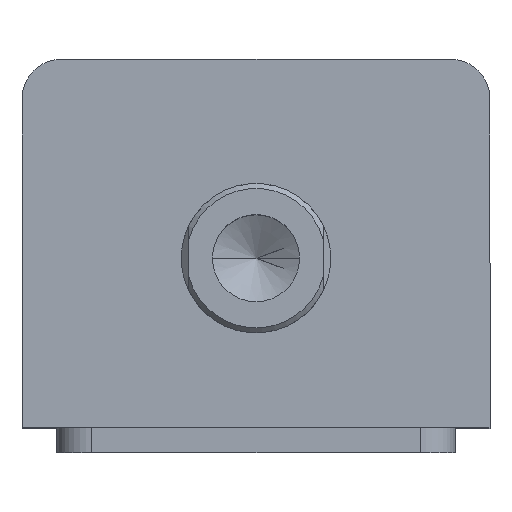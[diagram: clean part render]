
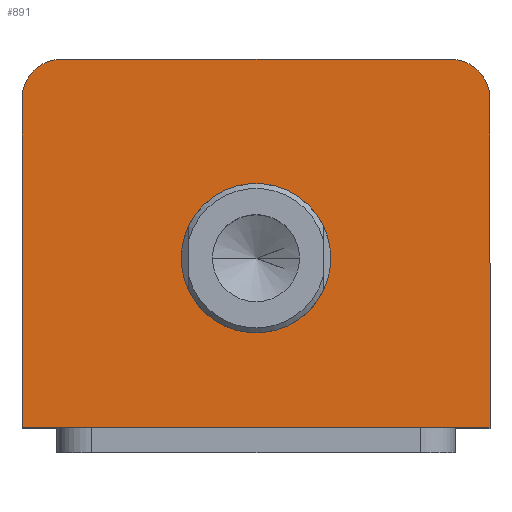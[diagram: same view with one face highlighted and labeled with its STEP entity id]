
A CAD part, top view. The second image highlights one B-rep face of the part: STEP entity #891.
In plain terms, the highlighted planar face has unit normal (0, 0, 1).
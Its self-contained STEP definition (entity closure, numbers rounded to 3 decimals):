
#135 = CIRCLE ( 'NONE', #1039, 15. ) ;
#187 = LINE ( 'NONE', #2949, #190 ) ;
#190 = VECTOR ( 'NONE', #2946, 1000. ) ;
#210 = LINE ( 'NONE', #2903, #213 ) ;
#213 = VECTOR ( 'NONE', #2901, 1000. ) ;
#235 = CIRCLE ( 'NONE', #1059, 8. ) ;
#249 = CIRCLE ( 'NONE', #1067, 8. ) ;
#257 = LINE ( 'NONE', #2781, #260 ) ;
#260 = VECTOR ( 'NONE', #2780, 1000. ) ;
#273 = LINE ( 'NONE', #2761, #276 ) ;
#276 = VECTOR ( 'NONE', #2760, 1000. ) ;
#290 = CIRCLE ( 'NONE', #1072, 15. ) ;
#654 = PLANE ( 'NONE',  #965 ) ;
#685 = DIRECTION ( 'NONE',  ( 1., 0., 0. ) ) ;
#686 = DIRECTION ( 'NONE',  ( 0., 0., 1. ) ) ;
#704 = CARTESIAN_POINT ( 'NONE',  ( 0., 0., 160. ) ) ;
#891 = ADVANCED_FACE ( 'NONE', ( #1603, #1597 ), #654, .T. ) ;
#965 = AXIS2_PLACEMENT_3D ( 'NONE', #704, #686, #685 ) ;
#1039 = AXIS2_PLACEMENT_3D ( 'NONE', #2771, #2769, #2768 ) ;
#1059 = AXIS2_PLACEMENT_3D ( 'NONE', #2847, #2846, #2845 ) ;
#1067 = AXIS2_PLACEMENT_3D ( 'NONE', #2804, #2803, #2802 ) ;
#1072 = AXIS2_PLACEMENT_3D ( 'NONE', #2733, #2732, #2731 ) ;
#1226 = EDGE_CURVE ( 'NONE', #2025, #2041, #135, .T. ) ;
#1258 = EDGE_CURVE ( 'NONE', #1685, #1661, #187, .T. ) ;
#1270 = EDGE_CURVE ( 'NONE', #1655, #1703, #210, .T. ) ;
#1287 = EDGE_CURVE ( 'NONE', #1703, #1685, #235, .T. ) ;
#1297 = EDGE_CURVE ( 'NONE', #1661, #1612, #249, .T. ) ;
#1303 = EDGE_CURVE ( 'NONE', #1653, #1655, #257, .T. ) ;
#1311 = EDGE_CURVE ( 'NONE', #1612, #1653, #273, .T. ) ;
#1320 = EDGE_CURVE ( 'NONE', #2041, #2025, #290, .T. ) ;
#1509 = ORIENTED_EDGE ( 'NONE', *, *, #1297, .T. ) ;
#1510 = ORIENTED_EDGE ( 'NONE', *, *, #1311, .T. ) ;
#1511 = ORIENTED_EDGE ( 'NONE', *, *, #1303, .T. ) ;
#1512 = ORIENTED_EDGE ( 'NONE', *, *, #1270, .T. ) ;
#1513 = ORIENTED_EDGE ( 'NONE', *, *, #1287, .T. ) ;
#1550 = ORIENTED_EDGE ( 'NONE', *, *, #1258, .T. ) ;
#1551 = ORIENTED_EDGE ( 'NONE', *, *, #1226, .F. ) ;
#1559 = ORIENTED_EDGE ( 'NONE', *, *, #1320, .F. ) ;
#1571 = CARTESIAN_POINT ( 'NONE',  ( 39., 37., 160. ) ) ;
#1597 = FACE_OUTER_BOUND ( 'NONE', #1861, .T. ) ;
#1603 = FACE_BOUND ( 'NONE', #2149, .T. ) ;
#1612 = VERTEX_POINT ( 'NONE', #1808 ) ;
#1653 = VERTEX_POINT ( 'NONE', #1750 ) ;
#1655 = VERTEX_POINT ( 'NONE', #1735 ) ;
#1661 = VERTEX_POINT ( 'NONE', #1723 ) ;
#1685 = VERTEX_POINT ( 'NONE', #1571 ) ;
#1703 = VERTEX_POINT ( 'NONE', #2624 ) ;
#1723 = CARTESIAN_POINT ( 'NONE',  ( -39., 37., 160. ) ) ;
#1735 = CARTESIAN_POINT ( 'NONE',  ( 47., -37., 160. ) ) ;
#1750 = CARTESIAN_POINT ( 'NONE',  ( -47., -37., 160. ) ) ;
#1808 = CARTESIAN_POINT ( 'NONE',  ( -47., 29., 160. ) ) ;
#1861 = EDGE_LOOP ( 'NONE', ( #1550, #1509, #1510, #1511, #1512, #1513 ) ) ;
#2025 = VERTEX_POINT ( 'NONE', #2590 ) ;
#2041 = VERTEX_POINT ( 'NONE', #2579 ) ;
#2149 = EDGE_LOOP ( 'NONE', ( #1559, #1551 ) ) ;
#2579 = CARTESIAN_POINT ( 'NONE',  ( 15., -3., 160. ) ) ;
#2590 = CARTESIAN_POINT ( 'NONE',  ( -15., -3., 160. ) ) ;
#2624 = CARTESIAN_POINT ( 'NONE',  ( 47., 29., 160. ) ) ;
#2731 = DIRECTION ( 'NONE',  ( 1., 0., 0. ) ) ;
#2732 = DIRECTION ( 'NONE',  ( 0., 0., 1. ) ) ;
#2733 = CARTESIAN_POINT ( 'NONE',  ( 0., -3., 160. ) ) ;
#2760 = DIRECTION ( 'NONE',  ( 0., -1., 0. ) ) ;
#2761 = CARTESIAN_POINT ( 'NONE',  ( -47., 37., 160. ) ) ;
#2768 = DIRECTION ( 'NONE',  ( 1., 0., 0. ) ) ;
#2769 = DIRECTION ( 'NONE',  ( 0., 0., 1. ) ) ;
#2771 = CARTESIAN_POINT ( 'NONE',  ( 0., -3., 160. ) ) ;
#2780 = DIRECTION ( 'NONE',  ( 1., 0., 0. ) ) ;
#2781 = CARTESIAN_POINT ( 'NONE',  ( -47., -37., 160. ) ) ;
#2802 = DIRECTION ( 'NONE',  ( 1., 0., 0. ) ) ;
#2803 = DIRECTION ( 'NONE',  ( 0., 0., 1. ) ) ;
#2804 = CARTESIAN_POINT ( 'NONE',  ( -39., 29., 160. ) ) ;
#2845 = DIRECTION ( 'NONE',  ( 1., 0., 0. ) ) ;
#2846 = DIRECTION ( 'NONE',  ( 0., 0., 1. ) ) ;
#2847 = CARTESIAN_POINT ( 'NONE',  ( 39., 29., 160. ) ) ;
#2901 = DIRECTION ( 'NONE',  ( 0., 1., 0. ) ) ;
#2903 = CARTESIAN_POINT ( 'NONE',  ( 47., 37., 160. ) ) ;
#2946 = DIRECTION ( 'NONE',  ( -1., 0., 0. ) ) ;
#2949 = CARTESIAN_POINT ( 'NONE',  ( -47., 37., 160. ) ) ;
